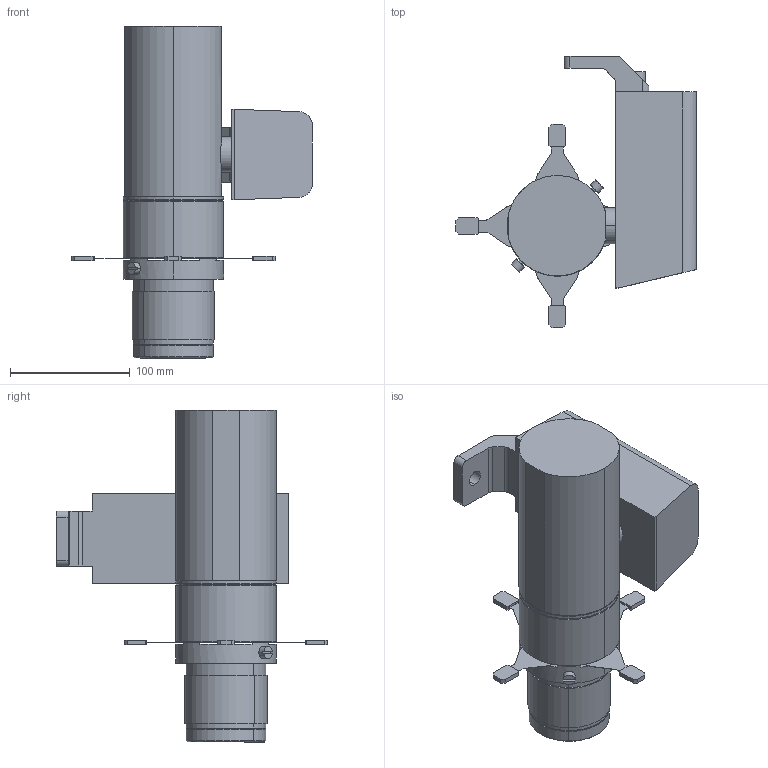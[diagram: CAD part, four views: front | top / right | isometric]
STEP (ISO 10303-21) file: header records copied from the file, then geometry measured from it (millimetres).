
FILE_DESCRIPTION (( 'STEP AP203' ), '1' );
FILE_NAME ('P1L (Clamp_Sidecar)_Hanging+50D_10-06-2026.STEP', '2026-06-11T05:05:32', ( '' ), ( '' ), 'SwSTEP 2.0', 'SolidWorks 2014', '' );
FILE_SCHEMA (( 'CONFIG_CONTROL_DESIGN' ));
Length unit declared in the file: millimetre
Products named in the file (4): P1L (Clamp_Sidecar)_Hanging+50D_10-06-2026; P1L - Light Body; 50D_Fresnel Lens_P1L; Sidecar_Yoke+PSU_(Clamp)
Assembly tree (3 placements, depth 2):
  P1L (Clamp_Sidecar)_Hanging+50D_10-06-2026
    Sidecar_Yoke+PSU_(Clamp)
    P1L - Light Body
    50D_Fresnel Lens_P1L
Bounding box: 201.56 x 227.16 x 277.7 mm (x, y, z)
Volume: 2203714.6 mm3; surface area: 171925.4 mm2
Topology: 3 solids, 3 shells, 270 faces, 709 edges, 460 vertices
Faces by surface type: plane 172, cylinder 84, cone 14
Entity records: 8863 total; most frequent: CARTESIAN_POINT 1619, DIRECTION 1451, ORIENTED_EDGE 1418, EDGE_CURVE 709, LINE 491, VECTOR 491, AXIS2_PLACEMENT_3D 480, VERTEX_POINT 460
